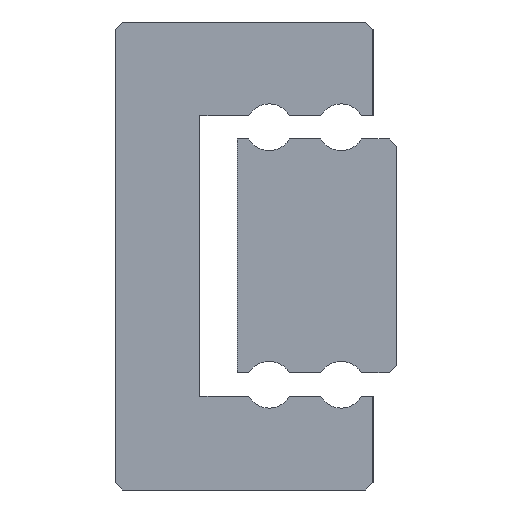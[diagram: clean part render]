
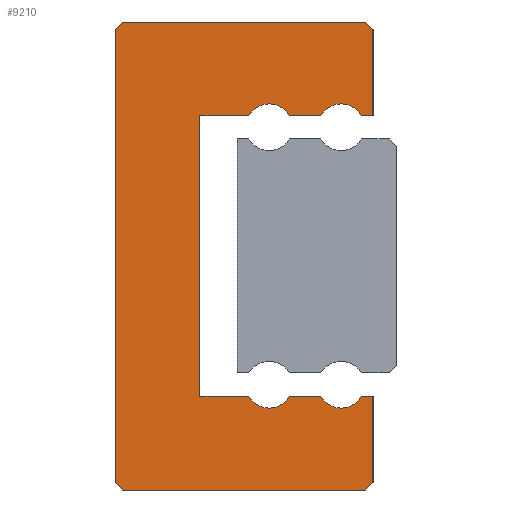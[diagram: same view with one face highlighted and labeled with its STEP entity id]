
A CAD part, left-side view. The second image highlights one B-rep face of the part: STEP entity #9210.
In plain terms, the highlighted planar face has unit normal (-1, 0, 0).
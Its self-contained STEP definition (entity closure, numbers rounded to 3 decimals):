
#294=CIRCLE('',#9994,0.5);
#296=CIRCLE('',#9998,0.5);
#302=CIRCLE('',#10008,0.5);
#304=CIRCLE('',#10012,0.5);
#1538=ORIENTED_EDGE('',*,*,#3866,.F.);
#1539=ORIENTED_EDGE('',*,*,#4314,.F.);
#1540=ORIENTED_EDGE('',*,*,#4311,.F.);
#1541=ORIENTED_EDGE('',*,*,#4304,.F.);
#1542=ORIENTED_EDGE('',*,*,#4301,.F.);
#1543=ORIENTED_EDGE('',*,*,#4298,.F.);
#1544=ORIENTED_EDGE('',*,*,#4295,.F.);
#1545=ORIENTED_EDGE('',*,*,#4292,.F.);
#1546=ORIENTED_EDGE('',*,*,#4289,.T.);
#1547=ORIENTED_EDGE('',*,*,#4286,.F.);
#1548=ORIENTED_EDGE('',*,*,#4283,.T.);
#1549=ORIENTED_EDGE('',*,*,#4280,.F.);
#1550=ORIENTED_EDGE('',*,*,#4277,.F.);
#1551=ORIENTED_EDGE('',*,*,#4270,.F.);
#1552=ORIENTED_EDGE('',*,*,#4267,.T.);
#1553=ORIENTED_EDGE('',*,*,#4264,.F.);
#1554=ORIENTED_EDGE('',*,*,#4261,.T.);
#1555=ORIENTED_EDGE('',*,*,#4258,.F.);
#1556=ORIENTED_EDGE('',*,*,#4255,.F.);
#1557=ORIENTED_EDGE('',*,*,#4252,.F.);
#3866=EDGE_CURVE('',#5284,#5285,#6246,.T.);
#4252=EDGE_CURVE('',#5285,#5670,#6384,.T.);
#4255=EDGE_CURVE('',#5670,#5672,#6387,.T.);
#4258=EDGE_CURVE('',#5672,#5674,#6390,.T.);
#4261=EDGE_CURVE('',#5676,#5674,#294,.T.);
#4264=EDGE_CURVE('',#5676,#5678,#6394,.T.);
#4267=EDGE_CURVE('',#5680,#5678,#296,.T.);
#4270=EDGE_CURVE('',#5680,#5682,#6398,.T.);
#4277=EDGE_CURVE('',#5682,#5688,#6401,.T.);
#4280=EDGE_CURVE('',#5688,#5690,#6404,.T.);
#4283=EDGE_CURVE('',#5692,#5690,#302,.T.);
#4286=EDGE_CURVE('',#5692,#5694,#6408,.T.);
#4289=EDGE_CURVE('',#5696,#5694,#304,.T.);
#4292=EDGE_CURVE('',#5696,#5698,#6412,.T.);
#4295=EDGE_CURVE('',#5698,#5700,#6415,.T.);
#4298=EDGE_CURVE('',#5700,#5702,#6418,.T.);
#4301=EDGE_CURVE('',#5702,#5704,#6421,.T.);
#4304=EDGE_CURVE('',#5704,#5706,#6424,.T.);
#4311=EDGE_CURVE('',#5706,#5712,#6427,.T.);
#4314=EDGE_CURVE('',#5712,#5284,#6430,.T.);
#5284=VERTEX_POINT('',#14021);
#5285=VERTEX_POINT('',#14022);
#5670=VERTEX_POINT('',#14794);
#5672=VERTEX_POINT('',#14800);
#5674=VERTEX_POINT('',#14806);
#5676=VERTEX_POINT('',#14812);
#5678=VERTEX_POINT('',#14818);
#5680=VERTEX_POINT('',#14824);
#5682=VERTEX_POINT('',#14830);
#5688=VERTEX_POINT('',#14844);
#5690=VERTEX_POINT('',#14850);
#5692=VERTEX_POINT('',#14856);
#5694=VERTEX_POINT('',#14862);
#5696=VERTEX_POINT('',#14868);
#5698=VERTEX_POINT('',#14874);
#5700=VERTEX_POINT('',#14880);
#5702=VERTEX_POINT('',#14886);
#5704=VERTEX_POINT('',#14892);
#5706=VERTEX_POINT('',#14898);
#5712=VERTEX_POINT('',#14912);
#6246=LINE('',#14020,#7062);
#6384=LINE('',#14793,#7200);
#6387=LINE('',#14799,#7203);
#6390=LINE('',#14805,#7206);
#6394=LINE('',#14817,#7210);
#6398=LINE('',#14829,#7214);
#6401=LINE('',#14843,#7217);
#6404=LINE('',#14849,#7220);
#6408=LINE('',#14861,#7224);
#6412=LINE('',#14873,#7228);
#6415=LINE('',#14879,#7231);
#6418=LINE('',#14885,#7234);
#6421=LINE('',#14891,#7237);
#6424=LINE('',#14897,#7240);
#6427=LINE('',#14911,#7243);
#6430=LINE('',#14917,#7246);
#7062=VECTOR('',#10941,1000.);
#7200=VECTOR('',#11577,1000.);
#7203=VECTOR('',#11582,1000.);
#7206=VECTOR('',#11587,1000.);
#7210=VECTOR('',#11599,1000.);
#7214=VECTOR('',#11611,1000.);
#7217=VECTOR('',#11624,1000.);
#7220=VECTOR('',#11629,1000.);
#7224=VECTOR('',#11641,1000.);
#7228=VECTOR('',#11653,1000.);
#7231=VECTOR('',#11658,1000.);
#7234=VECTOR('',#11663,1000.);
#7237=VECTOR('',#11668,1000.);
#7240=VECTOR('',#11673,1000.);
#7243=VECTOR('',#11686,1000.);
#7246=VECTOR('',#11691,1000.);
#7918=EDGE_LOOP('',(#1538,#1539,#1540,#1541,#1542,#1543,#1544,#1545,#1546,
#1547,#1548,#1549,#1550,#1551,#1552,#1553,#1554,#1555,#1556,#1557));
#8480=FACE_BOUND('',#7918,.T.);
#8997=PLANE('',#10026);
#9210=ADVANCED_FACE('',(#8480),#8997,.F.);
#9994=AXIS2_PLACEMENT_3D('',#14811,#11592,#11593);
#9998=AXIS2_PLACEMENT_3D('',#14823,#11604,#11605);
#10008=AXIS2_PLACEMENT_3D('',#14855,#11634,#11635);
#10012=AXIS2_PLACEMENT_3D('',#14867,#11646,#11647);
#10026=AXIS2_PLACEMENT_3D('',#14920,#11695,#11696);
#10941=DIRECTION('',(0.,-1.,0.));
#11577=DIRECTION('',(0.,-0.707,-0.707));
#11582=DIRECTION('',(0.,0.,-1.));
#11587=DIRECTION('',(0.,1.,0.));
#11592=DIRECTION('',(1.,0.,0.));
#11593=DIRECTION('',(0.,0.,-1.));
#11599=DIRECTION('',(0.,1.,0.));
#11604=DIRECTION('',(1.,0.,0.));
#11605=DIRECTION('',(0.,0.,-1.));
#11611=DIRECTION('',(0.,1.,0.));
#11624=DIRECTION('',(0.,0.,-1.));
#11629=DIRECTION('',(0.,-1.,0.));
#11634=DIRECTION('',(1.,0.,0.));
#11635=DIRECTION('',(0.,0.,-1.));
#11641=DIRECTION('',(0.,-1.,0.));
#11646=DIRECTION('',(1.,0.,0.));
#11647=DIRECTION('',(0.,0.,-1.));
#11653=DIRECTION('',(0.,-1.,0.));
#11658=DIRECTION('',(0.,0.,-1.));
#11663=DIRECTION('',(0.,0.707,-0.707));
#11668=DIRECTION('',(0.,1.,0.));
#11673=DIRECTION('',(0.,0.707,0.707));
#11686=DIRECTION('',(0.,0.,1.));
#11691=DIRECTION('',(0.,-0.707,0.707));
#11695=DIRECTION('',(1.,0.,0.));
#11696=DIRECTION('',(0.,0.,-1.));
#14020=CARTESIAN_POINT('',(-17.5,5.35,5.));
#14021=CARTESIAN_POINT('',(-17.5,5.35,5.));
#14022=CARTESIAN_POINT('',(-17.5,0.15,5.));
#14793=CARTESIAN_POINT('',(-17.5,0.15,5.));
#14794=CARTESIAN_POINT('',(-17.5,0.,4.85));
#14799=CARTESIAN_POINT('',(-17.5,0.,4.85));
#14800=CARTESIAN_POINT('',(-17.5,0.,3.));
#14805=CARTESIAN_POINT('',(-17.5,0.,3.));
#14806=CARTESIAN_POINT('',(-17.5,0.247,3.));
#14811=CARTESIAN_POINT('',(-17.5,0.68,2.75));
#14812=CARTESIAN_POINT('',(-17.5,1.113,3.));
#14817=CARTESIAN_POINT('',(-17.5,1.113,3.));
#14818=CARTESIAN_POINT('',(-17.5,1.787,3.));
#14823=CARTESIAN_POINT('',(-17.5,2.22,2.75));
#14824=CARTESIAN_POINT('',(-17.5,2.653,3.));
#14829=CARTESIAN_POINT('',(-17.5,2.653,3.));
#14830=CARTESIAN_POINT('',(-17.5,3.7,3.));
#14843=CARTESIAN_POINT('',(-17.5,3.7,3.));
#14844=CARTESIAN_POINT('',(-17.5,3.7,-3.));
#14849=CARTESIAN_POINT('',(-17.5,3.7,-3.));
#14850=CARTESIAN_POINT('',(-17.5,2.653,-3.));
#14855=CARTESIAN_POINT('',(-17.5,2.22,-2.75));
#14856=CARTESIAN_POINT('',(-17.5,1.787,-3.));
#14861=CARTESIAN_POINT('',(-17.5,1.787,-3.));
#14862=CARTESIAN_POINT('',(-17.5,1.113,-3.));
#14867=CARTESIAN_POINT('',(-17.5,0.68,-2.75));
#14868=CARTESIAN_POINT('',(-17.5,0.247,-3.));
#14873=CARTESIAN_POINT('',(-17.5,0.247,-3.));
#14874=CARTESIAN_POINT('',(-17.5,0.,-3.));
#14879=CARTESIAN_POINT('',(-17.5,0.,-3.));
#14880=CARTESIAN_POINT('',(-17.5,0.,-4.85));
#14885=CARTESIAN_POINT('',(-17.5,0.,-4.85));
#14886=CARTESIAN_POINT('',(-17.5,0.15,-5.));
#14891=CARTESIAN_POINT('',(-17.5,0.15,-5.));
#14892=CARTESIAN_POINT('',(-17.5,5.35,-5.));
#14897=CARTESIAN_POINT('',(-17.5,5.35,-5.));
#14898=CARTESIAN_POINT('',(-17.5,5.5,-4.85));
#14911=CARTESIAN_POINT('',(-17.5,5.5,-4.85));
#14912=CARTESIAN_POINT('',(-17.5,5.5,4.85));
#14917=CARTESIAN_POINT('',(-17.5,5.5,4.85));
#14920=CARTESIAN_POINT('',(-17.5,0.68,2.75));
